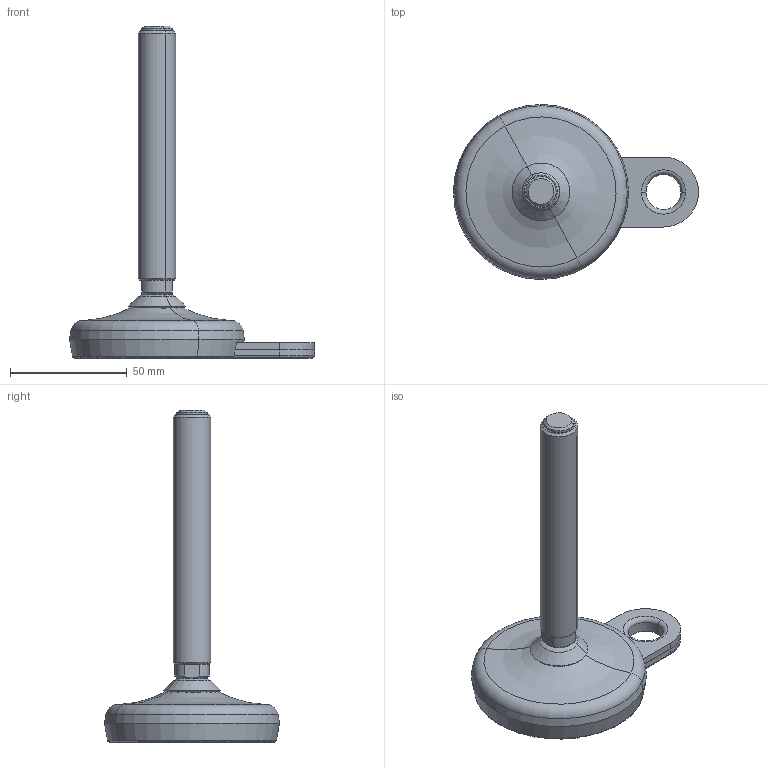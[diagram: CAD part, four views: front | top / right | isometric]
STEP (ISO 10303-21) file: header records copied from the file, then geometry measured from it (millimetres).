
FILE_DESCRIPTION(('CATIA V5 STEP Exchange'),'2;1');
FILE_NAME('\\server01\tecnico\CODICI MOVEX\3D per clienti\Tom\16-11-2012\P93502_01.stp','2012-11-16T15:23:54+00:00',('none'),('none'),'CATIA Version 5 Release 21 SP 1 (IN-10)','CATIA V5 STEP AP203','none');
FILE_SCHEMA(('CONFIG_CONTROL_DESIGN'));
Length unit declared in the file: millimetre
Products named in the file (1): Product1
Assembly tree (3 placements, depth 2):
  Product1
    #58
    #1953
    #3001
Bounding box: 104.99 x 74.98 x 142.27 mm (x, y, z)
Volume: 102005.2 mm3; surface area: 40289.2 mm2
Topology: 5 solids, 5 shells, 130 faces, 277 edges, 169 vertices
Faces by surface type: cylinder 35, cone 34, plane 34, torus 21, revolution 6
Entity records: 3325 total; most frequent: CARTESIAN_POINT 608, ORIENTED_EDGE 554, DIRECTION 450, EDGE_CURVE 277, AXIS2_PLACEMENT_3D 268, CIRCLE 178, VERTEX_POINT 169, EDGE_LOOP 154
